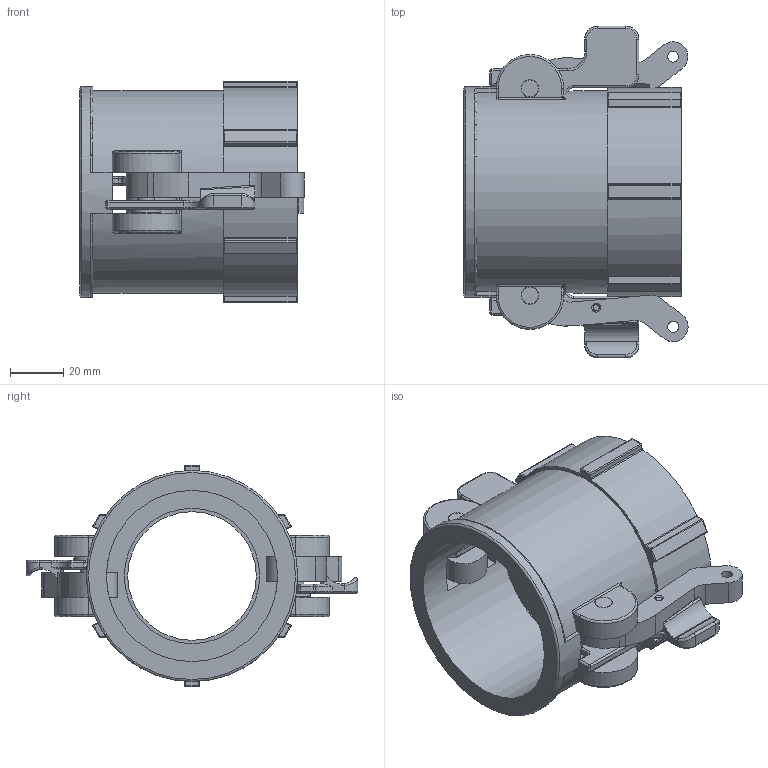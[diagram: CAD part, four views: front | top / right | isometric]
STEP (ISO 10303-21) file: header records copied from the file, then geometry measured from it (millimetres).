
FILE_DESCRIPTION(/* description */ ('Alibre Inc.'),/* implementation_level */ '2;1');
FILE_NAME(/* name */ 'export0',/* time_stamp */ '2015-12-30T14:44:29-05:00',/* author */ (''),/* organization */ (''),/* preprocessor_version */ 'ST-DEVELOPER v14',/* originating_system */ 'Alibre',/* authorisation */ '');
FILE_SCHEMA (('CONFIG_CONTROL_DESIGN'));
Length unit declared in the file: centimetre
Products named in the file (6): ID_1; ID_2; ID_3; ID_4
Bounding box: 84.16 x 124.46 x 83.31 mm (x, y, z)
Volume: 173461.9 mm3; surface area: 69342.1 mm2
Topology: 8 solids, 8 shells, 466 faces, 1136 edges, 654 vertices
Faces by surface type: cylinder 187, plane 127, sphere 39, cone 38, bspline 38, torus 37
Full cylindrical faces by diameter (mm): 4.064 x2, 6.35 x8, 6.604 x4, 11.125 x2, 48.26 x2, 50.8 x1, 64.262 x1, 66.802 x1, 68.072 x1, 76.048 x1, 79.248 x1
Entity records: 58694 total; most frequent: CARTESIAN_POINT 50355, ORIENTED_EDGE 1640, DIRECTION 1460, EDGE_CURVE 816, AXIS2_PLACEMENT_3D 620, VERTEX_POINT 496, EDGE_LOOP 404, FACE_BOUND 404
